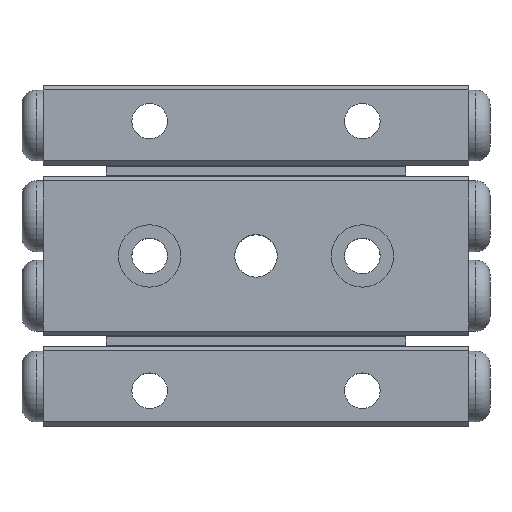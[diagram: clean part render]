
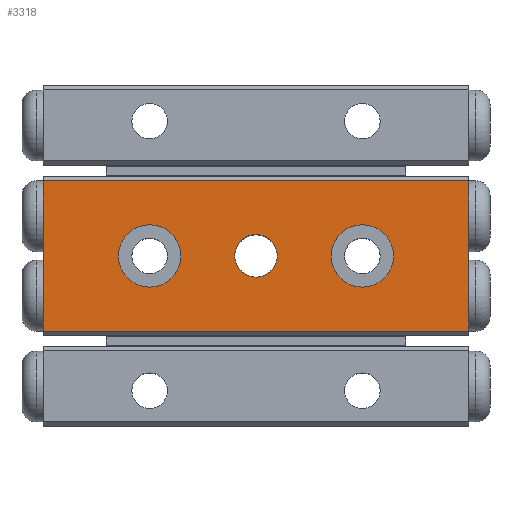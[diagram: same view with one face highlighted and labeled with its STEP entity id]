
A CAD part, top view. The second image highlights one B-rep face of the part: STEP entity #3318.
In plain terms, the highlighted planar face has unit normal (0, 0, 1) as drawn and (0, -1, 0) by its records, which use the part's own axes.
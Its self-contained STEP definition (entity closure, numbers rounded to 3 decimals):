
#165=LINE('',#5752,#483);
#167=LINE('',#5759,#485);
#170=LINE('',#5765,#488);
#174=LINE('',#5779,#492);
#180=LINE('',#5790,#498);
#181=LINE('',#5798,#499);
#182=LINE('',#5799,#500);
#183=LINE('',#5800,#501);
#483=VECTOR('',#4738,1000.);
#485=VECTOR('',#4744,1000.);
#488=VECTOR('',#4749,1000.);
#492=VECTOR('',#4759,1000.);
#498=VECTOR('',#4769,1000.);
#499=VECTOR('',#4778,1000.);
#500=VECTOR('',#4779,1000.);
#501=VECTOR('',#4780,1000.);
#826=ORIENTED_EDGE('',*,*,#1789,.F.);
#827=ORIENTED_EDGE('',*,*,#1790,.F.);
#828=ORIENTED_EDGE('',*,*,#1791,.F.);
#829=ORIENTED_EDGE('',*,*,#1782,.T.);
#830=ORIENTED_EDGE('',*,*,#1792,.T.);
#831=ORIENTED_EDGE('',*,*,#1770,.T.);
#832=ORIENTED_EDGE('',*,*,#1793,.F.);
#833=ORIENTED_EDGE('',*,*,#1773,.F.);
#834=ORIENTED_EDGE('',*,*,#1794,.F.);
#835=ORIENTED_EDGE('',*,*,#1776,.F.);
#836=ORIENTED_EDGE('',*,*,#1788,.T.);
#1770=EDGE_CURVE('',#2251,#2254,#165,.T.);
#1773=EDGE_CURVE('',#2257,#2258,#167,.T.);
#1776=EDGE_CURVE('',#2260,#2261,#170,.T.);
#1782=EDGE_CURVE('',#2267,#2265,#174,.T.);
#1788=EDGE_CURVE('',#2260,#2267,#180,.T.);
#1789=EDGE_CURVE('',#2270,#2270,#2580,.T.);
#1790=EDGE_CURVE('',#2271,#2271,#2581,.T.);
#1791=EDGE_CURVE('',#2272,#2272,#2582,.T.);
#1792=EDGE_CURVE('',#2265,#2251,#181,.T.);
#1793=EDGE_CURVE('',#2258,#2254,#182,.T.);
#1794=EDGE_CURVE('',#2261,#2257,#183,.T.);
#2251=VERTEX_POINT('',#5745);
#2254=VERTEX_POINT('',#5751);
#2257=VERTEX_POINT('',#5758);
#2258=VERTEX_POINT('',#5760);
#2260=VERTEX_POINT('',#5766);
#2261=VERTEX_POINT('',#5767);
#2265=VERTEX_POINT('',#5777);
#2267=VERTEX_POINT('',#5780);
#2270=VERTEX_POINT('',#5793);
#2271=VERTEX_POINT('',#5795);
#2272=VERTEX_POINT('',#5797);
#2580=CIRCLE('',#4394,1.5);
#2581=CIRCLE('',#4395,2.2);
#2582=CIRCLE('',#4396,2.2);
#2688=EDGE_LOOP('',(#826));
#2689=EDGE_LOOP('',(#827));
#2690=EDGE_LOOP('',(#828));
#2691=EDGE_LOOP('',(#829,#830,#831,#832,#833,#834,#835,#836));
#2932=FACE_BOUND('',#2688,.T.);
#2933=FACE_BOUND('',#2689,.T.);
#2934=FACE_BOUND('',#2690,.T.);
#2935=FACE_BOUND('',#2691,.T.);
#3176=PLANE('',#4393);
#3318=ADVANCED_FACE('',(#2932,#2933,#2934,#2935),#3176,.F.);
#4393=AXIS2_PLACEMENT_3D('',#5791,#4770,#4771);
#4394=AXIS2_PLACEMENT_3D('',#5792,#4772,#4773);
#4395=AXIS2_PLACEMENT_3D('',#5794,#4774,#4775);
#4396=AXIS2_PLACEMENT_3D('',#5796,#4776,#4777);
#4738=DIRECTION('',(0.,0.,-1.));
#4744=DIRECTION('',(0.,0.,-1.));
#4749=DIRECTION('',(0.,0.,-1.));
#4759=DIRECTION('',(0.,0.,-1.));
#4769=DIRECTION('',(-1.,0.,0.));
#4770=DIRECTION('',(0.,1.,0.));
#4771=DIRECTION('',(0.,0.,1.));
#4772=DIRECTION('',(0.,-1.,0.));
#4773=DIRECTION('',(0.,0.,-1.));
#4774=DIRECTION('',(0.,-1.,0.));
#4775=DIRECTION('',(0.,0.,-1.));
#4776=DIRECTION('',(0.,-1.,0.));
#4777=DIRECTION('',(0.,0.,-1.));
#4778=DIRECTION('',(0.,0.,-1.));
#4779=DIRECTION('',(-1.,0.,0.));
#4780=DIRECTION('',(0.,0.,-1.));
#5745=CARTESIAN_POINT('',(1.5,0.,-2.8));
#5751=CARTESIAN_POINT('',(1.5,0.,-5.3));
#5752=CARTESIAN_POINT('',(1.5,0.,5.3));
#5758=CARTESIAN_POINT('',(31.5,0.,-2.8));
#5759=CARTESIAN_POINT('',(31.5,0.,5.3));
#5760=CARTESIAN_POINT('',(31.5,0.,-5.3));
#5765=CARTESIAN_POINT('',(31.5,0.,5.3));
#5766=CARTESIAN_POINT('',(31.5,0.,5.3));
#5767=CARTESIAN_POINT('',(31.5,0.,2.8));
#5777=CARTESIAN_POINT('',(1.5,0.,2.8));
#5779=CARTESIAN_POINT('',(1.5,0.,5.3));
#5780=CARTESIAN_POINT('',(1.5,0.,5.3));
#5790=CARTESIAN_POINT('',(31.5,0.,5.3));
#5791=CARTESIAN_POINT('',(31.5,0.,5.3));
#5792=CARTESIAN_POINT('',(16.5,0.,0.));
#5793=CARTESIAN_POINT('',(16.5,0.,-1.5));
#5794=CARTESIAN_POINT('',(24.,0.,0.));
#5795=CARTESIAN_POINT('',(24.,0.,-2.2));
#5796=CARTESIAN_POINT('',(9.,0.,0.));
#5797=CARTESIAN_POINT('',(9.,0.,-2.2));
#5798=CARTESIAN_POINT('',(1.5,0.,5.3));
#5799=CARTESIAN_POINT('',(31.5,0.,-5.3));
#5800=CARTESIAN_POINT('',(31.5,0.,5.3));
